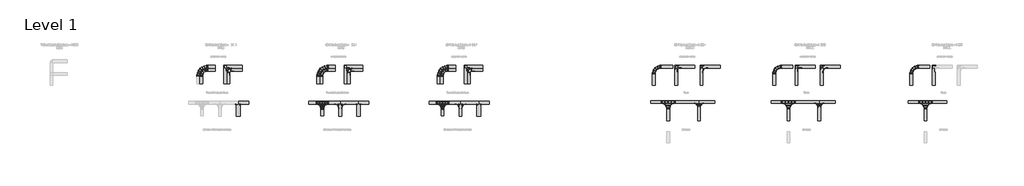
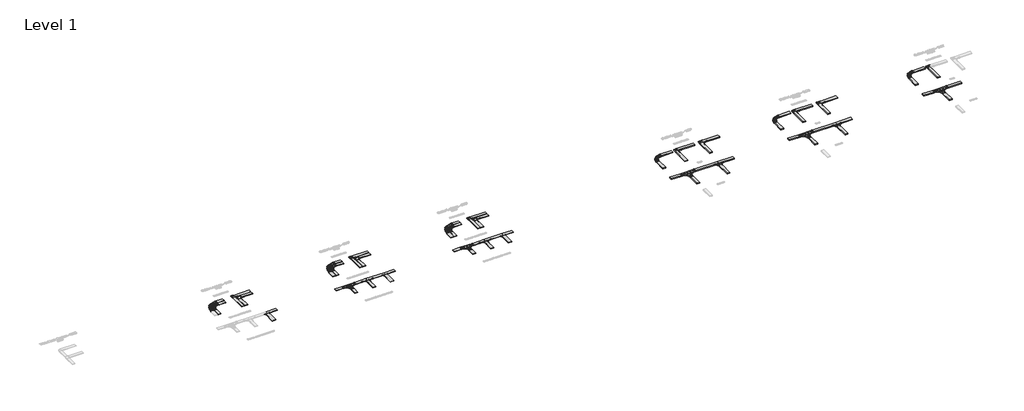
# One storey, part 17 of 106: 67 cable carrier segments, 56 cable carrier fittings.
"""IFC4 building model written with IfcOpenShell, lengths in millimetres."""

from ifc_helpers import new_model, si_unit, frame, origin, place, context, project, spatial, polyline, outline, extrude, transform, mapped, element, save
from components import cable_carrier_fitting_2d894193, cable_carrier_fitting_655502a1, cable_carrier_fitting_0f11f104, cable_carrier_fitting_8b1f635d, cable_carrier_fitting_d30d66bc, cable_carrier_fitting_8d7dc52b, cable_carrier_fitting_cb814f34, cable_carrier_fitting_a9217249, cable_carrier_fitting_0282ae3e, cable_carrier_fitting_7be8867b, cable_carrier_fitting_6104b6d9, cable_carrier_fitting_7f83391f, cable_carrier_fitting_c279e415, cable_carrier_fitting_8fabbff6, cable_carrier_fitting_aab6282a, cable_carrier_fitting_abdd8f1c, cable_carrier_fitting_74346276, cable_carrier_fitting_f2f9dd5a, cable_carrier_fitting_50edb55a, cable_carrier_fitting_8eee429d, cable_carrier_fitting_5ffc5da9, cable_carrier_fitting_e0d5d1fe, cable_carrier_fitting_fa28906a, cable_carrier_fitting_d9442e26, cable_carrier_fitting_6588ca61

model = new_model("IFC4")

# Units and contexts
model_context = context("Model", 3, world=origin())
ifc_project = project(units=[si_unit("LENGTHUNIT", "METRE", prefix="MILLI")], contexts=[model_context])

# Site, building, storey
site = spatial("IfcSite", under=ifc_project)
building = spatial("IfcBuilding", under=site)
storey = spatial("IfcBuildingStorey", under=building, Name="Level 1", Elevation=0.0)

# Cable carrier fittings
placement = place(None, origin())
cable_carrier_fitting_shape = cable_carrier_fitting_2d894193(model_context)
element("IfcCableCarrierFitting", 1, ObjectType="BAKS_LD_CONN_Angle coupler bendable_LKU : LKUP_H45", at=placement, inside=storey, context=model_context, shape_type="MappedRepresentation", body=[
    mapped(cable_carrier_fitting_shape, transform((32089.4231102, 65255.924016, 32.5), x_axis=(1.0, 0.0, 0.0), y_axis=(0.0, 1.0, 0.0), z_axis=(0.0, 0.0, 1.0))),
])
element("IfcCableCarrierFitting", 2, ObjectType="BAKS_LD_CONN_Angle coupler bendable_LKU : LKUP_H45", at=placement, inside=storey, context=model_context, shape_type="MappedRepresentation", body=[
    mapped(cable_carrier_fitting_shape, transform((32489.4231102, 65255.924016, 32.5), x_axis=(0.0, 1.0, 0.0), y_axis=(-1.0, 0.0, 0.0), z_axis=(0.0, 0.0, 1.0))),
])
element("IfcCableCarrierFitting", 3, ObjectType="BAKS_LD_CONN_Angle coupler bendable_LKU : LKUP_H45", at=placement, inside=storey, context=model_context, shape_type="MappedRepresentation", body=[
    mapped(cable_carrier_fitting_shape, transform((43080.7849338, 65255.924016, 32.5), x_axis=(1.0, 0.0, 0.0), y_axis=(0.0, 1.0, 0.0), z_axis=(0.0, 0.0, 1.0))),
])
element("IfcCableCarrierFitting", 4, ObjectType="BAKS_LD_CONN_Angle coupler bendable_LKU : LKUP_H45", at=placement, inside=storey, context=model_context, shape_type="MappedRepresentation", body=[
    mapped(cable_carrier_fitting_shape, transform((43380.7849338, 65255.924016, 32.5), x_axis=(0.0, 1.0, 0.0), y_axis=(-1.0, 0.0, 0.0), z_axis=(0.0, 0.0, 1.0))),
])
element("IfcCableCarrierFitting", 5, ObjectType="BAKS_LD_CONN_Angle coupler bendable_LKU : LKUP_H45", at=placement, inside=storey, context=model_context, shape_type="MappedRepresentation", body=[
    mapped(cable_carrier_fitting_shape, transform((44989.4231102, 65255.924016, 32.5), x_axis=(1.0, 0.0, 0.0), y_axis=(0.0, 1.0, 0.0), z_axis=(0.0, 0.0, 1.0))),
])
element("IfcCableCarrierFitting", 6, ObjectType="BAKS_LD_CONN_Angle coupler bendable_LKU : LKUP_H45", at=placement, inside=storey, context=model_context, shape_type="MappedRepresentation", body=[
    mapped(cable_carrier_fitting_shape, transform((45389.4231102, 65255.924016, 32.5), x_axis=(0.0, 1.0, 0.0), y_axis=(-1.0, 0.0, 0.0), z_axis=(0.0, 0.0, 1.0))),
])
cable_carrier_fitting_2_shape = cable_carrier_fitting_655502a1(model_context)
element("IfcCableCarrierFitting", 7, ObjectType="BAKS_LD_CONN_Angle coupler bendable_LKU : LKUC_H45", at=placement, inside=storey, context=model_context, shape_type="MappedRepresentation", body=[
    mapped(cable_carrier_fitting_2_shape, transform((55980.7849338, 65255.924016, 32.5), x_axis=(1.0, 0.0, 0.0), y_axis=(0.0, 1.0, 0.0), z_axis=(0.0, 0.0, 1.0))),
])
element("IfcCableCarrierFitting", 8, ObjectType="BAKS_LD_CONN_Angle coupler bendable_LKU : LKUC_H45", at=placement, inside=storey, context=model_context, shape_type="MappedRepresentation", body=[
    mapped(cable_carrier_fitting_2_shape, transform((56280.7849338, 65255.924016, 32.5), x_axis=(0.0, 1.0, 0.0), y_axis=(-1.0, 0.0, 0.0), z_axis=(0.0, 0.0, 1.0))),
])
element("IfcCableCarrierFitting", 9, ObjectType="BAKS_LD_CONN_Angle coupler bendable_LKU : LKUC_H45", at=placement, inside=storey, context=model_context, shape_type="MappedRepresentation", body=[
    mapped(cable_carrier_fitting_2_shape, transform((57889.4231102, 65255.924016, 32.5), x_axis=(1.0, 0.0, 0.0), y_axis=(0.0, 1.0, 0.0), z_axis=(0.0, 0.0, 1.0))),
])
element("IfcCableCarrierFitting", 10, ObjectType="BAKS_LD_CONN_Angle coupler bendable_LKU : LKUC_H45", at=placement, inside=storey, context=model_context, shape_type="MappedRepresentation", body=[
    mapped(cable_carrier_fitting_2_shape, transform((58289.4231102, 65255.924016, 32.5), x_axis=(0.0, 1.0, 0.0), y_axis=(-1.0, 0.0, 0.0), z_axis=(0.0, 0.0, 1.0))),
])
cable_carrier_fitting_3_shape = cable_carrier_fitting_0f11f104(model_context)
element("IfcCableCarrierFitting", 11, ObjectType="BAKS_LD_CONN_Addon connector_LDDK : LDDKP", at=placement, inside=storey, context=model_context, shape_type="MappedRepresentation", body=[
    mapped(cable_carrier_fitting_3_shape, transform((43080.7849338, 65255.924016, 55.0), x_axis=(1.0, 0.0, 0.0), y_axis=(0.0, 1.0, 0.0), z_axis=(0.0, 0.0, 1.0))),
])
element("IfcCableCarrierFitting", 12, ObjectType="BAKS_LD_CONN_Addon connector_LDDK : LDDKP", at=placement, inside=storey, context=model_context, shape_type="MappedRepresentation", body=[
    mapped(cable_carrier_fitting_3_shape, transform((55980.7849338, 65255.924016, 55.0), x_axis=(1.0, 0.0, 0.0), y_axis=(0.0, 1.0, 0.0), z_axis=(0.0, 0.0, 1.0))),
])
cable_carrier_fitting_4_shape = cable_carrier_fitting_8b1f635d(model_context)
element("IfcCableCarrierFitting", 13, ObjectType="BAKS_LD_BEND_Horizontal bend_LD : LDP_H45", at=placement, inside=storey, context=model_context, shape_type="MappedRepresentation", body=[
    mapped(cable_carrier_fitting_4_shape, transform((28333.1923304, 68934.0774962, 55.0), x_axis=(-1.0, 0.0, 0.0), y_axis=(0.0, -1.0, 0.0), z_axis=(0.0, 0.0, 1.0))),
])
element("IfcCableCarrierFitting", 14, ObjectType="BAKS_LD_BEND_Horizontal bend_LD : LDP_H45", at=placement, inside=storey, context=model_context, shape_type="MappedRepresentation", body=[
    mapped(cable_carrier_fitting_4_shape, transform((41233.1923304, 68934.0774962, 55.0), x_axis=(-1.0, 0.0, 0.0), y_axis=(0.0, -1.0, 0.0), z_axis=(0.0, 0.0, 1.0))),
])
cable_carrier_fitting_5_shape = cable_carrier_fitting_d30d66bc(model_context)
element("IfcCableCarrierFitting", 15, ObjectType="BAKS_LD_TEE_Ladder horizontal tee_TD : TDP_H45", at=placement, inside=storey, context=model_context, shape_type="MappedRepresentation", body=[
    mapped(cable_carrier_fitting_5_shape, transform((41302.3039726, 65405.924016, 55.0), x_axis=(1.0, 0.0, 0.0), y_axis=(0.0, 1.0, 0.0), z_axis=(0.0, 0.0, 1.0))),
])
cable_carrier_fitting_6_shape = cable_carrier_fitting_8d7dc52b(model_context)
element("IfcCableCarrierFitting", 16, ObjectType="BAKS_LD_CONN_Univarsal connector elbow_LLUS : LLUSP_H45", at=placement, inside=storey, context=model_context, shape_type="MappedRepresentation", body=[
    mapped(cable_carrier_fitting_6_shape, transform((31245.9928229, 68934.0678837, 55.0), x_axis=(-1.0, 0.0, 0.0), y_axis=(0.0, -1.0, 0.0), z_axis=(0.0, 0.0, 1.0))),
])
element("IfcCableCarrierFitting", 17, ObjectType="BAKS_LD_CONN_Univarsal connector elbow_LLUS : LLUSP_H45", at=placement, inside=storey, context=model_context, shape_type="MappedRepresentation", body=[
    mapped(cable_carrier_fitting_6_shape, transform((44145.9928229, 68934.0678837, 55.0), x_axis=(-1.0, 0.0, 0.0), y_axis=(0.0, -1.0, 0.0), z_axis=(0.0, 0.0, 1.0))),
])
cable_carrier_fitting_7_shape = cable_carrier_fitting_cb814f34(model_context)
element("IfcCableCarrierFitting", 18, ObjectType="BAKS_LD_BEND_Horizontal bend external_LDZ : LDZP_H45", at=placement, inside=storey, context=model_context, shape_type="MappedRepresentation", body=[
    mapped(cable_carrier_fitting_7_shape, transform((27979.6389398, 69287.6308868, 55.0), x_axis=(-1.0, 0.0, 0.0), y_axis=(0.0, -1.0, 0.0), z_axis=(0.0, 0.0, 1.0))),
])
element("IfcCableCarrierFitting", 19, ObjectType="BAKS_LD_BEND_Horizontal bend external_LDZ : LDZP_H45", at=placement, inside=storey, context=model_context, shape_type="MappedRepresentation", body=[
    mapped(cable_carrier_fitting_7_shape, transform((40879.6389398, 69287.6308868, 55.0), x_axis=(-1.0, 0.0, 0.0), y_axis=(0.0, -1.0, 0.0), z_axis=(0.0, 0.0, 1.0))),
])
cable_carrier_fitting_8_shape = cable_carrier_fitting_a9217249(model_context)
element("IfcCableCarrierFitting", 20, ObjectType="BAKS_LD_CONN_Addon connector_LDDK : LDDKP", at=placement, inside=storey, context=model_context, shape_type="MappedRepresentation", body=[
    mapped(cable_carrier_fitting_8_shape, transform((43380.7849338, 65255.924016, 55.0), x_axis=(-1.0, 0.0, 0.0), y_axis=(0.0, -1.0, 0.0), z_axis=(0.0, 0.0, 1.0))),
])
element("IfcCableCarrierFitting", 21, ObjectType="BAKS_LD_CONN_Addon connector_LDDK : LDDKP", at=placement, inside=storey, context=model_context, shape_type="MappedRepresentation", body=[
    mapped(cable_carrier_fitting_8_shape, transform((56280.7849338, 65255.924016, 55.0), x_axis=(-1.0, 0.0, 0.0), y_axis=(0.0, -1.0, 0.0), z_axis=(0.0, 0.0, 1.0))),
])
cable_carrier_fitting_9_shape = cable_carrier_fitting_0282ae3e(model_context)
element("IfcCableCarrierFitting", 22, ObjectType="BAKS_LD_CONN_Angle connector_LKD : LKDP_H45", at=placement, inside=storey, context=model_context, shape_type="MappedRepresentation", body=[
    mapped(cable_carrier_fitting_9_shape, transform((30742.4394324, 69437.6212743, 55.0), x_axis=(-1.0, 0.0, 0.0), y_axis=(0.0, -1.0, 0.0), z_axis=(0.0, 0.0, 1.0))),
])
element("IfcCableCarrierFitting", 23, ObjectType="BAKS_LD_CONN_Angle connector_LKD : LKDP_H45", at=placement, inside=storey, context=model_context, shape_type="MappedRepresentation", body=[
    mapped(cable_carrier_fitting_9_shape, transform((43642.4394324, 69437.6212743, 55.0), x_axis=(-1.0, 0.0, 0.0), y_axis=(0.0, -1.0, 0.0), z_axis=(0.0, 0.0, 1.0))),
])
cable_carrier_fitting_10_shape = cable_carrier_fitting_7be8867b(model_context)
element("IfcCableCarrierFitting", 24, ObjectType="BAKS_LD_CONN_Angle connector_LKD : LKDP_H45", at=placement, inside=storey, context=model_context, shape_type="MappedRepresentation", body=[
    mapped(cable_carrier_fitting_10_shape, transform((31042.4394324, 69137.6212743, 55.0), x_axis=(-1.0, 0.0, 0.0), y_axis=(0.0, -1.0, 0.0), z_axis=(0.0, 0.0, 1.0))),
])
element("IfcCableCarrierFitting", 25, ObjectType="BAKS_LD_CONN_Angle connector_LKD : LKDP_H45", at=placement, inside=storey, context=model_context, shape_type="MappedRepresentation", body=[
    mapped(cable_carrier_fitting_10_shape, transform((43942.4394324, 69137.6212743, 55.0), x_axis=(-1.0, 0.0, 0.0), y_axis=(0.0, -1.0, 0.0), z_axis=(0.0, 0.0, 1.0))),
])
cable_carrier_fitting_11_shape = cable_carrier_fitting_6104b6d9(model_context)
element("IfcCableCarrierFitting", 26, ObjectType="BAKS_LD_BEND_2 x Angle connector_LKD : 2 x LKDP_H45", at=placement, inside=storey, context=model_context, shape_type="MappedRepresentation", body=[
    mapped(cable_carrier_fitting_11_shape, transform((30892.4394324, 69287.6212743, 55.0), x_axis=(-1.0, 0.0, 0.0), y_axis=(0.0, -1.0, 0.0), z_axis=(0.0, 0.0, 1.0))),
])
element("IfcCableCarrierFitting", 27, ObjectType="BAKS_LD_BEND_2 x Angle connector_LKD : 2 x LKDP_H45", at=placement, inside=storey, context=model_context, shape_type="MappedRepresentation", body=[
    mapped(cable_carrier_fitting_11_shape, transform((43792.4394324, 69287.6212743, 55.0), x_axis=(-1.0, 0.0, 0.0), y_axis=(0.0, -1.0, 0.0), z_axis=(0.0, 0.0, 1.0))),
])
element("IfcCableCarrierFitting", 28, ObjectType="BAKS_LD_BEND_Horizontal bend external_LDZ : LDZC_H45", at=placement, inside=storey, context=model_context, shape_type="MappedRepresentation", body=[
    mapped(cable_carrier_fitting_7_shape, transform((53779.6389398, 69287.6308868, 55.0), x_axis=(-1.0, 0.0, 0.0), y_axis=(0.0, -1.0, 0.0), z_axis=(0.0, 0.0, 1.0))),
])
element("IfcCableCarrierFitting", 29, ObjectType="BAKS_LD_BEND_Horizontal bend_LD : LDC_H45", at=placement, inside=storey, context=model_context, shape_type="MappedRepresentation", body=[
    mapped(cable_carrier_fitting_4_shape, transform((54133.1923304, 68934.0774962, 55.0), x_axis=(-1.0, 0.0, 0.0), y_axis=(0.0, -1.0, 0.0), z_axis=(0.0, 0.0, 1.0))),
])
cable_carrier_fitting_12_shape = cable_carrier_fitting_7f83391f(model_context)
element("IfcCableCarrierFitting", 30, ObjectType="BAKS_LD_BEND_2 x Angle connector_LKD : 2 x LKDC_H45", at=placement, inside=storey, context=model_context, shape_type="MappedRepresentation", body=[
    mapped(cable_carrier_fitting_12_shape, transform((56692.4394324, 69287.6212743, 55.0), x_axis=(-1.0, 0.0, 0.0), y_axis=(0.0, -1.0, 0.0), z_axis=(0.0, 0.0, 1.0))),
])
cable_carrier_fitting_13_shape = cable_carrier_fitting_c279e415(model_context)
element("IfcCableCarrierFitting", 31, ObjectType="BAKS_LD_CONN_Angle connector_LKD : LKDC_H45", at=placement, inside=storey, context=model_context, shape_type="MappedRepresentation", body=[
    mapped(cable_carrier_fitting_13_shape, transform((56542.4383806, 69437.6212743, 55.0), x_axis=(-1.0, 0.0, 0.0), y_axis=(0.0, -1.0, 0.0), z_axis=(0.0, 0.0, 1.0))),
])
cable_carrier_fitting_14_shape = cable_carrier_fitting_8fabbff6(model_context)
element("IfcCableCarrierFitting", 32, ObjectType="BAKS_LD_CONN_Angle connector_LKD : LKDC_H45", at=placement, inside=storey, context=model_context, shape_type="MappedRepresentation", body=[
    mapped(cable_carrier_fitting_14_shape, transform((56842.4404841, 69137.6212743, 55.0), x_axis=(-1.0, 0.0, 0.0), y_axis=(0.0, -1.0, 0.0), z_axis=(0.0, 0.0, 1.0))),
])
element("IfcCableCarrierFitting", 33, ObjectType="BAKS_LD_CONN_Univarsal connector elbow_LLUS : LLUS_H45", at=placement, inside=storey, context=model_context, shape_type="MappedRepresentation", body=[
    mapped(cable_carrier_fitting_6_shape, transform((57045.9928229, 68934.0678837, 55.0), x_axis=(-1.0, 0.0, 0.0), y_axis=(0.0, -1.0, 0.0), z_axis=(0.0, 0.0, 1.0))),
])
element("IfcCableCarrierFitting", 34, ObjectType="BAKS_LD_TEE_Ladder horizontal tee_TD : TDC_H45", at=placement, inside=storey, context=model_context, shape_type="MappedRepresentation", body=[
    mapped(cable_carrier_fitting_5_shape, transform((54202.3039726, 65405.924016, 55.0), x_axis=(1.0, 0.0, 0.0), y_axis=(0.0, 1.0, 0.0), z_axis=(0.0, 0.0, 1.0))),
])
cable_carrier_fitting_15_shape = cable_carrier_fitting_aab6282a(model_context)
element("IfcCableCarrierFitting", 35, ObjectType="BAKS_LDLS_BEND_Horizontal bend_LDS : LDSC/LDSMC_H100", at=placement, inside=storey, context=model_context, shape_type="MappedRepresentation", body=[
    mapped(cable_carrier_fitting_15_shape, transform((89769.5117541, 69272.6565861, 55.0), x_axis=(-1.0, 0.0, 0.0), y_axis=(0.0, -1.0, 0.0), z_axis=(0.0, 0.0, 1.0))),
])
cable_carrier_fitting_16_shape = cable_carrier_fitting_abdd8f1c(model_context)
element("IfcCableCarrierFitting", 36, ObjectType="BAKS_LDLS_TEE_Ladder horizontal tee_TDS : TDSC_H100", at=placement, inside=storey, context=model_context, shape_type="MappedRepresentation", body=[
    mapped(cable_carrier_fitting_16_shape, transform((91294.8605695, 65498.3440687, 55.0), x_axis=(1.0, 0.0, 0.0), y_axis=(0.0, 1.0, 0.0), z_axis=(0.0, 0.0, 1.0))),
])
element("IfcCableCarrierFitting", 37, ObjectType="BAKS_LDLS_BEND_Horizontal bend_LDS : LDSP/LDSMP_H100", at=placement, inside=storey, context=model_context, shape_type="MappedRepresentation", body=[
    mapped(cable_carrier_fitting_15_shape, transform((76869.5117541, 69272.6565861, 55.0), x_axis=(-1.0, 0.0, 0.0), y_axis=(0.0, -1.0, 0.0), z_axis=(0.0, 0.0, 1.0))),
])
element("IfcCableCarrierFitting", 38, ObjectType="BAKS_LDLS_TEE_Ladder horizontal tee_TDS : TDSP_H100", at=placement, inside=storey, context=model_context, shape_type="MappedRepresentation", body=[
    mapped(cable_carrier_fitting_16_shape, transform((78394.8605695, 65498.3440687, 55.0), x_axis=(1.0, 0.0, 0.0), y_axis=(0.0, 1.0, 0.0), z_axis=(0.0, 0.0, 1.0))),
])
element("IfcCableCarrierFitting", 39, ObjectType="BAKS_LDLS_BEND_Horizontal bend_LDS : LDST/LDSMT_H100", at=placement, inside=storey, context=model_context, shape_type="MappedRepresentation", body=[
    mapped(cable_carrier_fitting_15_shape, transform((104469.5117541, 69272.6565861, 55.0), x_axis=(-1.0, 0.0, 0.0), y_axis=(0.0, -1.0, 0.0), z_axis=(0.0, 0.0, 1.0))),
])
element("IfcCableCarrierFitting", 40, ObjectType="BAKS_LDLS_TEE_Ladder horizontal tee_TDS : TDST_H100", at=placement, inside=storey, context=model_context, shape_type="MappedRepresentation", body=[
    mapped(cable_carrier_fitting_16_shape, transform((105994.8605695, 65498.3440687, 55.0), x_axis=(1.0, 0.0, 0.0), y_axis=(0.0, 1.0, 0.0), z_axis=(0.0, 0.0, 1.0))),
])
cable_carrier_fitting_17_shape = cable_carrier_fitting_74346276(model_context)
element("IfcCableCarrierFitting", 41, ObjectType="BAKS_LDLS_CONN_Inner extension straight connector_LDUW : LDUW_H100", at=placement, inside=storey, context=model_context, shape_type="MappedRepresentation", body=[
    mapped(cable_carrier_fitting_17_shape, transform((82119.5117541, 69122.6565861, 55.0), x_axis=(-1.0, 0.0, 0.0), y_axis=(0.0, -1.0, 0.0), z_axis=(0.0, 0.0, 1.0))),
])
element("IfcCableCarrierFitting", 42, ObjectType="BAKS_LDLS_CONN_Inner extension straight connector_LDUW : LDUW_H100", at=placement, inside=storey, context=model_context, shape_type="MappedRepresentation", body=[
    mapped(cable_carrier_fitting_17_shape, transform((95019.5117541, 69122.6565861, 55.0), x_axis=(-1.0, 0.0, 0.0), y_axis=(0.0, -1.0, 0.0), z_axis=(0.0, 0.0, 1.0))),
])
cable_carrier_fitting_18_shape = cable_carrier_fitting_f2f9dd5a(model_context)
element("IfcCableCarrierFitting", 43, ObjectType="BAKS_LDLS_CONN_Outer straight connector angled_LKUZ : LKUZ_H100", at=placement, inside=storey, context=model_context, shape_type="MappedRepresentation", body=[
    mapped(cable_carrier_fitting_18_shape, transform((81819.5117541, 69422.6565861, 55.0), x_axis=(-1.0, 0.0, 0.0), y_axis=(0.0, -1.0, 0.0), z_axis=(0.0, 0.0, 1.0))),
])
element("IfcCableCarrierFitting", 44, ObjectType="BAKS_LDLS_CONN_Outer straight connector angled_LKUZ : LKUZ_H100", at=placement, inside=storey, context=model_context, shape_type="MappedRepresentation", body=[
    mapped(cable_carrier_fitting_18_shape, transform((94719.5117541, 69422.6565861, 55.0), x_axis=(-1.0, 0.0, 0.0), y_axis=(0.0, -1.0, 0.0), z_axis=(0.0, 0.0, 1.0))),
])
cable_carrier_fitting_19_shape = cable_carrier_fitting_50edb55a(model_context)
element("IfcCableCarrierFitting", 45, ObjectType="BAKS_LDLS_BEND_LDDSC Extension arch set_LDUWxLKUZ : LDDSC_H100", at=placement, inside=storey, context=model_context, shape_type="MappedRepresentation", body=[
    mapped(cable_carrier_fitting_19_shape, transform((81969.5117541, 69272.6565861, 55.0), x_axis=(-1.0, 0.0, 0.0), y_axis=(0.0, -1.0, 0.0), z_axis=(0.0, 0.0, 1.0))),
])
element("IfcCableCarrierFitting", 46, ObjectType="BAKS_LDLS_BEND_LDDSC Extension arch set_LDUWxLKUZ : LDDSC_H100", at=placement, inside=storey, context=model_context, shape_type="MappedRepresentation", body=[
    mapped(cable_carrier_fitting_19_shape, transform((94869.5117541, 69272.6565861, 55.0), x_axis=(-1.0, 0.0, 0.0), y_axis=(0.0, -1.0, 0.0), z_axis=(0.0, 0.0, 1.0))),
])
element("IfcCableCarrierFitting", 47, ObjectType="BAKS_LDLS_BEND_2 x Angle connector_LKSU : 2 x LKSUP_H100", at=placement, inside=storey, context=model_context, shape_type="MappedRepresentation", body=[
    mapped(cable_carrier_fitting_19_shape, transform((79269.5117541, 69272.6565861, 55.0), x_axis=(-1.0, 0.0, 0.0), y_axis=(0.0, -1.0, 0.0), z_axis=(0.0, 0.0, 1.0))),
])
cable_carrier_fitting_20_shape = cable_carrier_fitting_8eee429d(model_context)
element("IfcCableCarrierFitting", 48, ObjectType="BAKS_LDLS_CONN_Angle connector_LKSU : LKSUP_H100", at=placement, inside=storey, context=model_context, shape_type="MappedRepresentation", body=[
    mapped(cable_carrier_fitting_20_shape, transform((79119.5117541, 69422.6565861, 55.0), x_axis=(-1.0, 0.0, 0.0), y_axis=(0.0, -1.0, 0.0), z_axis=(0.0, 0.0, 1.0))),
])
cable_carrier_fitting_21_shape = cable_carrier_fitting_5ffc5da9(model_context)
element("IfcCableCarrierFitting", 49, ObjectType="BAKS_LDLS_CONN_Angle connector_LKSU : LKSUP_H100", at=placement, inside=storey, context=model_context, shape_type="MappedRepresentation", body=[
    mapped(cable_carrier_fitting_21_shape, transform((79419.5117541, 69122.6565861, 55.0), x_axis=(-1.0, 0.0, 0.0), y_axis=(0.0, -1.0, 0.0), z_axis=(0.0, 0.0, 1.0))),
])
cable_carrier_fitting_22_shape = cable_carrier_fitting_e0d5d1fe(model_context)
element("IfcCableCarrierFitting", 50, ObjectType="BAKS_LDLS_TEE_Addon tee_TDSU : TDSUC_H100", at=placement, inside=storey, context=model_context, shape_type="MappedRepresentation", body=[
    mapped(cable_carrier_fitting_22_shape, transform((94606.814664, 65498.3440687, 55.0), x_axis=(1.0, 0.0, 0.0), y_axis=(0.0, 1.0, 0.0), z_axis=(0.0, 0.0, 1.0))),
])
cable_carrier_fitting_23_shape = cable_carrier_fitting_fa28906a(model_context)
element("IfcCableCarrierFitting", 51, ObjectType="BAKS_LDLS_TEE_Addon tee_TDSU : TDSUP_H100", at=placement, inside=storey, context=model_context, shape_type="MappedRepresentation", body=[
    mapped(cable_carrier_fitting_23_shape, transform((81706.814664, 65498.3440687, 55.0), x_axis=(1.0, 0.0, 0.0), y_axis=(0.0, 1.0, 0.0), z_axis=(0.0, 0.0, 1.0))),
])
element("IfcCableCarrierFitting", 52, ObjectType="BAKS_LDLS_BEND_2 x Angle connector_LKSU : 2 x LKSUC_H100", at=placement, inside=storey, context=model_context, shape_type="MappedRepresentation", body=[
    mapped(cable_carrier_fitting_19_shape, transform((92169.5117541, 69272.6565861, 55.0), x_axis=(-1.0, 0.0, 0.0), y_axis=(0.0, -1.0, 0.0), z_axis=(0.0, 0.0, 1.0))),
])
element("IfcCableCarrierFitting", 53, ObjectType="BAKS_LDLS_CONN_Angle connector_LKSU : LKSUC_H100", at=placement, inside=storey, context=model_context, shape_type="MappedRepresentation", body=[
    mapped(cable_carrier_fitting_18_shape, transform((92019.5117541, 69422.6565861, 55.0), x_axis=(-1.0, 0.0, 0.0), y_axis=(0.0, -1.0, 0.0), z_axis=(0.0, 0.0, 1.0))),
])
cable_carrier_fitting_24_shape = cable_carrier_fitting_d9442e26(model_context)
element("IfcCableCarrierFitting", 54, ObjectType="BAKS_LDLS_CONN_Angle connector_LKSU : LKSUC_H100", at=placement, inside=storey, context=model_context, shape_type="MappedRepresentation", body=[
    mapped(cable_carrier_fitting_24_shape, transform((92319.5117541, 69122.6565861, 55.0), x_axis=(-1.0, 0.0, 0.0), y_axis=(0.0, -1.0, 0.0), z_axis=(0.0, 0.0, 1.0))),
])
element("IfcCableCarrierFitting", 55, ObjectType="BAKS_LDLS_BEND_2 x Angle connector_LKSU : 2 x LKSUT_H100", at=placement, inside=storey, context=model_context, shape_type="MappedRepresentation", body=[
    mapped(cable_carrier_fitting_19_shape, transform((106869.5117541, 69272.6565861, 55.0), x_axis=(-1.0, 0.0, 0.0), y_axis=(0.0, -1.0, 0.0), z_axis=(0.0, 0.0, 1.0))),
])
cable_carrier_fitting_25_shape = cable_carrier_fitting_6588ca61(model_context)
element("IfcCableCarrierFitting", 56, ObjectType="BAKS_LDLS_CONN_Angle connector_LKSU : LKSUT_H100", at=placement, inside=storey, context=model_context, shape_type="MappedRepresentation", body=[
    mapped(cable_carrier_fitting_25_shape, transform((106719.5117541, 69422.6565861, 55.0), x_axis=(-1.0, 0.0, 0.0), y_axis=(0.0, -1.0, 0.0), z_axis=(0.0, 0.0, 1.0))),
])

# Cable carrier segments
element("IfcCableCarrierSegment", 57, ObjectType="BAKS - Ladder H45 (DKD)", at=placement, inside=storey, context=model_context, shape_type="SweptSolid", body=[
    extrude(outline(polyline([(29053.1923304, 68784.0774962), (29053.1923304, 69084.0774962), (29810.6923304, 69084.0774962), (29810.6923304, 68784.0774962), (29053.1923304, 68784.0774962)])), frame((0.0, 0.0, 32.5), z_axis=(0.0, 0.0, 1.0), x_axis=(1.0, 0.0, 0.0)), (0.0, 0.0, 1.0), 45.0),
])
element("IfcCableCarrierSegment", 58, ObjectType="BAKS - Ladder H45 (DKD)", at=placement, inside=storey, context=model_context, shape_type="SweptSolid", body=[
    extrude(outline(polyline([(28183.1923304, 68214.0774962), (28483.1923304, 68214.0774962), (28483.1923304, 67434.0774962), (28183.1923304, 67434.0774962), (28183.1923304, 68214.0774962)])), frame((0.0, 0.0, 32.5), z_axis=(0.0, 0.0, 1.0), x_axis=(1.0, 0.0, 0.0)), (0.0, 0.0, 1.0), 45.0),
])
element("IfcCableCarrierSegment", 59, ObjectType="BAKS - Ladder H45 (DKD)", at=placement, inside=storey, context=model_context, shape_type="SweptSolid", body=[
    extrude(outline(polyline([(29079.6389398, 69137.6308868), (29079.6389398, 69437.6308868), (29810.6923304, 69437.6308868), (29810.6923304, 69137.6308868), (29079.6389398, 69137.6308868)])), frame((0.0, 0.0, 32.5), z_axis=(0.0, 0.0, 1.0), x_axis=(1.0, 0.0, 0.0)), (0.0, 0.0, 1.0), 45.0),
])
element("IfcCableCarrierSegment", 60, ObjectType="BAKS - Ladder H45 (DKD)", at=placement, inside=storey, context=model_context, shape_type="SweptSolid", body=[
    extrude(outline(polyline([(32290.9231102, 65255.924016), (32290.9231102, 65555.924016), (33412.2849338, 65555.924016), (33412.2849338, 65255.924016), (32290.9231102, 65255.924016)])), frame((0.0, 0.0, 32.5), z_axis=(0.0, 0.0, 1.0), x_axis=(1.0, 0.0, 0.0)), (0.0, 0.0, 1.0), 45.0),
])
element("IfcCableCarrierSegment", 61, ObjectType="BAKS - Ladder H45 (DKD)", at=placement, inside=storey, context=model_context, shape_type="SweptSolid", body=[
    extrude(outline(polyline([(32089.4231102, 65225.924016), (32489.4231102, 65225.924016), (32489.4231102, 63955.924016), (32089.4231102, 63955.924016), (32089.4231102, 65225.924016)])), frame((0.0, 0.0, 32.5), z_axis=(0.0, 0.0, 1.0), x_axis=(1.0, 0.0, 0.0)), (0.0, 0.0, 1.0), 45.0),
])
element("IfcCableCarrierSegment", 62, ObjectType="BAKS - Ladder H45 (DKD)", at=placement, inside=storey, context=model_context, shape_type="SweptSolid", body=[
    extrude(outline(polyline([(31535.9928229, 68784.0678837), (31535.9928229, 69084.0678837), (32723.4928229, 69084.0678837), (32723.4928229, 68784.0678837), (31535.9928229, 68784.0678837)])), frame((0.0, 0.0, 32.5), z_axis=(0.0, 0.0, 1.0), x_axis=(1.0, 0.0, 0.0)), (0.0, 0.0, 1.0), 45.0),
])
element("IfcCableCarrierSegment", 63, ObjectType="BAKS - Ladder H45 (DKD)", at=placement, inside=storey, context=model_context, shape_type="SweptSolid", body=[
    extrude(outline(polyline([(31095.9928229, 68644.0678837), (31395.9928229, 68644.0678837), (31395.9928229, 67434.0678837), (31095.9928229, 67434.0678837), (31095.9928229, 68644.0678837)])), frame((0.0, 0.0, 32.5), z_axis=(0.0, 0.0, 1.0), x_axis=(1.0, 0.0, 0.0)), (0.0, 0.0, 1.0), 45.0),
])
element("IfcCableCarrierSegment", 64, ObjectType="BAKS - Ladder H45 (DKD)", at=placement, inside=storey, context=model_context, shape_type="SweptSolid", body=[
    extrude(outline(polyline([(31042.4383287, 69137.6336431), (31042.440536, 69437.6336431), (32723.4939266, 69437.6212743), (32723.4917193, 69137.6212743), (31042.4383287, 69137.6336431)])), frame((0.0, 0.0, 32.5), z_axis=(0.0, 0.0, 1.0), x_axis=(1.0, 0.0, 0.0)), (0.0, 0.0, 1.0), 45.0),
])
element("IfcCableCarrierSegment", 65, ObjectType="BAKS - Ladder H45 (DKD)", at=placement, inside=storey, context=model_context, shape_type="SweptSolid", body=[
    extrude(outline(polyline([(30742.4274879, 69137.6325914), (31042.4274879, 69137.6346948), (31042.4394324, 67434.0689354), (30742.4394324, 67434.066832), (30742.4274879, 69137.6325914)])), frame((0.0, 0.0, 32.5), z_axis=(0.0, 0.0, 1.0), x_axis=(1.0, 0.0, 0.0)), (0.0, 0.0, 1.0), 45.0),
])
element("IfcCableCarrierSegment", 66, ObjectType="BAKS - Ladder H45 (DKP)", at=placement, inside=storey, context=model_context, shape_type="SweptSolid", body=[
    extrude(outline(polyline([(41953.1923304, 68784.0774962), (41953.1923304, 69084.0774962), (42710.6923304, 69084.0774962), (42710.6923304, 68784.0774962), (41953.1923304, 68784.0774962)])), frame((0.0, 0.0, 32.5), z_axis=(0.0, 0.0, 1.0), x_axis=(1.0, 0.0, 0.0)), (0.0, 0.0, 1.0), 45.0),
])
element("IfcCableCarrierSegment", 67, ObjectType="BAKS - Ladder H45 (DKP)", at=placement, inside=storey, context=model_context, shape_type="SweptSolid", body=[
    extrude(outline(polyline([(41083.1923304, 68214.0774962), (41383.1923304, 68214.0774962), (41383.1923304, 67434.0774962), (41083.1923304, 67434.0774962), (41083.1923304, 68214.0774962)])), frame((0.0, 0.0, 32.5), z_axis=(0.0, 0.0, 1.0), x_axis=(1.0, 0.0, 0.0)), (0.0, 0.0, 1.0), 45.0),
])
element("IfcCableCarrierSegment", 68, ObjectType="BAKS - Ladder H45 (DKP)", at=placement, inside=storey, context=model_context, shape_type="SweptSolid", body=[
    extrude(outline(polyline([(41979.6389398, 69137.6308868), (41979.6389398, 69437.6308868), (42710.6923304, 69437.6308868), (42710.6923304, 69137.6308868), (41979.6389398, 69137.6308868)])), frame((0.0, 0.0, 32.5), z_axis=(0.0, 0.0, 1.0), x_axis=(1.0, 0.0, 0.0)), (0.0, 0.0, 1.0), 45.0),
])
element("IfcCableCarrierSegment", 69, ObjectType="BAKS - Ladder H45 (DKP)", at=placement, inside=storey, context=model_context, shape_type="SweptSolid", body=[
    extrude(outline(polyline([(40729.6389398, 68187.6308868), (41029.6389398, 68187.6308868), (41029.6389398, 67434.0774962), (40729.6389398, 67434.0774962), (40729.6389398, 68187.6308868)])), frame((0.0, 0.0, 32.5), z_axis=(0.0, 0.0, 1.0), x_axis=(1.0, 0.0, 0.0)), (0.0, 0.0, 1.0), 45.0),
])
element("IfcCableCarrierSegment", 70, ObjectType="BAKS - Ladder H45 (DKP)", at=placement, inside=storey, context=model_context, shape_type="SweptSolid", body=[
    extrude(outline(polyline([(45190.9231102, 65255.924016), (45190.9231102, 65555.924016), (46312.2849338, 65555.924016), (46312.2849338, 65255.924016), (45190.9231102, 65255.924016)])), frame((0.0, 0.0, 32.5), z_axis=(0.0, 0.0, 1.0), x_axis=(1.0, 0.0, 0.0)), (0.0, 0.0, 1.0), 45.0),
])
element("IfcCableCarrierSegment", 71, ObjectType="BAKS - Ladder H45 (DKP)", at=placement, inside=storey, context=model_context, shape_type="SweptSolid", body=[
    extrude(outline(polyline([(41152.3039726, 64685.924016), (41452.3039726, 64685.924016), (41452.3039726, 64005.924016), (41152.3039726, 64005.924016), (41152.3039726, 64685.924016)])), frame((0.0, 0.0, 32.5), z_axis=(0.0, 0.0, 1.0), x_axis=(1.0, 0.0, 0.0)), (0.0, 0.0, 1.0), 45.0),
])
element("IfcCableCarrierSegment", 72, ObjectType="BAKS - Ladder H45 (DKP)", at=placement, inside=storey, context=model_context, shape_type="SweptSolid", body=[
    extrude(outline(polyline([(39864.3823889, 65255.924016), (39864.3823889, 65555.924016), (40582.3039726, 65555.924016), (40582.3039726, 65255.924016), (39864.3823889, 65255.924016)])), frame((0.0, 0.0, 32.5), z_axis=(0.0, 0.0, 1.0), x_axis=(1.0, 0.0, 0.0)), (0.0, 0.0, 1.0), 45.0),
])
element("IfcCableCarrierSegment", 73, ObjectType="BAKS - Ladder H45 (DKP)", at=placement, inside=storey, context=model_context, shape_type="SweptSolid", body=[
    extrude(outline(polyline([(43080.7849338, 65225.924016), (43380.7849338, 65225.924016), (43380.7849338, 63955.924016), (43080.7849338, 63955.924016), (43080.7849338, 65225.924016)])), frame((0.0, 0.0, 32.5), z_axis=(0.0, 0.0, 1.0), x_axis=(1.0, 0.0, 0.0)), (0.0, 0.0, 1.0), 45.0),
])
element("IfcCableCarrierSegment", 74, ObjectType="BAKS - Ladder H45 (DKP)", at=placement, inside=storey, context=model_context, shape_type="SweptSolid", body=[
    extrude(outline(polyline([(42022.3039726, 65255.924016), (42022.3039726, 65555.924016), (43229.2849338, 65555.924016), (43229.2849338, 65255.924016), (42022.3039726, 65255.924016)])), frame((0.0, 0.0, 32.5), z_axis=(0.0, 0.0, 1.0), x_axis=(1.0, 0.0, 0.0)), (0.0, 0.0, 1.0), 45.0),
])
element("IfcCableCarrierSegment", 75, ObjectType="BAKS - Ladder H45 (DKP)", at=placement, inside=storey, context=model_context, shape_type="SweptSolid", body=[
    extrude(outline(polyline([(43232.2849338, 65255.924016), (43232.2849338, 65555.924016), (45187.9231102, 65555.924016), (45187.9231102, 65255.924016), (43232.2849338, 65255.924016)])), frame((0.0, 0.0, 32.5), z_axis=(0.0, 0.0, 1.0), x_axis=(1.0, 0.0, 0.0)), (0.0, 0.0, 1.0), 45.0),
])
element("IfcCableCarrierSegment", 76, ObjectType="BAKS - Ladder H45 (DKP)", at=placement, inside=storey, context=model_context, shape_type="SweptSolid", body=[
    extrude(outline(polyline([(44989.4231102, 65225.924016), (45389.4231102, 65225.924016), (45389.4231102, 63955.924016), (44989.4231102, 63955.924016), (44989.4231102, 65225.924016)])), frame((0.0, 0.0, 32.5), z_axis=(0.0, 0.0, 1.0), x_axis=(1.0, 0.0, 0.0)), (0.0, 0.0, 1.0), 45.0),
])
element("IfcCableCarrierSegment", 77, ObjectType="BAKS - Ladder H45 (DKP)", at=placement, inside=storey, context=model_context, shape_type="SweptSolid", body=[
    extrude(outline(polyline([(44435.9928229, 68784.0678837), (44435.9928229, 69084.0678837), (45623.4928229, 69084.0678837), (45623.4928229, 68784.0678837), (44435.9928229, 68784.0678837)])), frame((0.0, 0.0, 32.5), z_axis=(0.0, 0.0, 1.0), x_axis=(1.0, 0.0, 0.0)), (0.0, 0.0, 1.0), 45.0),
])
element("IfcCableCarrierSegment", 78, ObjectType="BAKS - Ladder H45 (DKP)", at=placement, inside=storey, context=model_context, shape_type="SweptSolid", body=[
    extrude(outline(polyline([(43995.9928229, 68644.0678837), (44295.9928229, 68644.0678837), (44295.9928229, 67434.0678837), (43995.9928229, 67434.0678837), (43995.9928229, 68644.0678837)])), frame((0.0, 0.0, 32.5), z_axis=(0.0, 0.0, 1.0), x_axis=(1.0, 0.0, 0.0)), (0.0, 0.0, 1.0), 45.0),
])
element("IfcCableCarrierSegment", 79, ObjectType="BAKS - Ladder H45 (DKP)", at=placement, inside=storey, context=model_context, shape_type="SweptSolid", body=[
    extrude(outline(polyline([(43942.4383287, 69137.6336431), (43942.440536, 69437.6336431), (45623.4939266, 69437.6212743), (45623.4917193, 69137.6212743), (43942.4383287, 69137.6336431)])), frame((0.0, 0.0, 32.5), z_axis=(0.0, 0.0, 1.0), x_axis=(1.0, 0.0, 0.0)), (0.0, 0.0, 1.0), 45.0),
])
element("IfcCableCarrierSegment", 80, ObjectType="BAKS - Ladder H45 (DKP)", at=placement, inside=storey, context=model_context, shape_type="SweptSolid", body=[
    extrude(outline(polyline([(43642.4274879, 69137.6325914), (43942.4274879, 69137.6346948), (43942.4394324, 67434.0689354), (43642.4394324, 67434.066832), (43642.4274879, 69137.6325914)])), frame((0.0, 0.0, 32.5), z_axis=(0.0, 0.0, 1.0), x_axis=(1.0, 0.0, 0.0)), (0.0, 0.0, 1.0), 45.0),
])
element("IfcCableCarrierSegment", 81, ObjectType="BAKS - Ladder H45 (DKC)", at=placement, inside=storey, context=model_context, shape_type="SweptSolid", body=[
    extrude(outline(polyline([(54853.1923304, 68784.0774962), (54853.1923304, 69084.0774962), (55610.6923304, 69084.0774962), (55610.6923304, 68784.0774962), (54853.1923304, 68784.0774962)])), frame((0.0, 0.0, 32.5), z_axis=(0.0, 0.0, 1.0), x_axis=(1.0, 0.0, 0.0)), (0.0, 0.0, 1.0), 45.0),
])
element("IfcCableCarrierSegment", 82, ObjectType="BAKS - Ladder H45 (DKC)", at=placement, inside=storey, context=model_context, shape_type="SweptSolid", body=[
    extrude(outline(polyline([(53983.1923304, 68214.0774962), (54283.1923304, 68214.0774962), (54283.1923304, 67434.0774962), (53983.1923304, 67434.0774962), (53983.1923304, 68214.0774962)])), frame((0.0, 0.0, 32.5), z_axis=(0.0, 0.0, 1.0), x_axis=(1.0, 0.0, 0.0)), (0.0, 0.0, 1.0), 45.0),
])
element("IfcCableCarrierSegment", 83, ObjectType="BAKS - Ladder H45 (DKC)", at=placement, inside=storey, context=model_context, shape_type="SweptSolid", body=[
    extrude(outline(polyline([(54879.6389398, 69137.6308868), (54879.6389398, 69437.6308868), (55610.6923304, 69437.6308868), (55610.6923304, 69137.6308868), (54879.6389398, 69137.6308868)])), frame((0.0, 0.0, 32.5), z_axis=(0.0, 0.0, 1.0), x_axis=(1.0, 0.0, 0.0)), (0.0, 0.0, 1.0), 45.0),
])
element("IfcCableCarrierSegment", 84, ObjectType="BAKS - Ladder H45 (DKC)", at=placement, inside=storey, context=model_context, shape_type="SweptSolid", body=[
    extrude(outline(polyline([(53629.6389398, 68187.6308868), (53929.6389398, 68187.6308868), (53929.6389398, 67434.0774962), (53629.6389398, 67434.0774962), (53629.6389398, 68187.6308868)])), frame((0.0, 0.0, 32.5), z_axis=(0.0, 0.0, 1.0), x_axis=(1.0, 0.0, 0.0)), (0.0, 0.0, 1.0), 45.0),
])
element("IfcCableCarrierSegment", 85, ObjectType="BAKS - Ladder H45 (DKC)", at=placement, inside=storey, context=model_context, shape_type="SweptSolid", body=[
    extrude(outline(polyline([(58090.9231102, 65255.924016), (58090.9231102, 65555.924016), (59212.2849338, 65555.924016), (59212.2849338, 65255.924016), (58090.9231102, 65255.924016)])), frame((0.0, 0.0, 32.5), z_axis=(0.0, 0.0, 1.0), x_axis=(1.0, 0.0, 0.0)), (0.0, 0.0, 1.0), 45.0),
])
element("IfcCableCarrierSegment", 86, ObjectType="BAKS - Ladder H45 (DKC)", at=placement, inside=storey, context=model_context, shape_type="SweptSolid", body=[
    extrude(outline(polyline([(54052.3039726, 64685.924016), (54352.3039726, 64685.924016), (54352.3039726, 64005.924016), (54052.3039726, 64005.924016), (54052.3039726, 64685.924016)])), frame((0.0, 0.0, 32.5), z_axis=(0.0, 0.0, 1.0), x_axis=(1.0, 0.0, 0.0)), (0.0, 0.0, 1.0), 45.0),
])
element("IfcCableCarrierSegment", 87, ObjectType="BAKS - Ladder H45 (DKC)", at=placement, inside=storey, context=model_context, shape_type="SweptSolid", body=[
    extrude(outline(polyline([(52764.3823889, 65255.924016), (52764.3823889, 65555.924016), (53482.3039726, 65555.924016), (53482.3039726, 65255.924016), (52764.3823889, 65255.924016)])), frame((0.0, 0.0, 32.5), z_axis=(0.0, 0.0, 1.0), x_axis=(1.0, 0.0, 0.0)), (0.0, 0.0, 1.0), 45.0),
])
element("IfcCableCarrierSegment", 88, ObjectType="BAKS - Ladder H45 (DKC)", at=placement, inside=storey, context=model_context, shape_type="SweptSolid", body=[
    extrude(outline(polyline([(55980.7849338, 65225.924016), (56280.7849338, 65225.924016), (56280.7849338, 63955.924016), (55980.7849338, 63955.924016), (55980.7849338, 65225.924016)])), frame((0.0, 0.0, 32.5), z_axis=(0.0, 0.0, 1.0), x_axis=(1.0, 0.0, 0.0)), (0.0, 0.0, 1.0), 45.0),
])
element("IfcCableCarrierSegment", 89, ObjectType="BAKS - Ladder H45 (DKC)", at=placement, inside=storey, context=model_context, shape_type="SweptSolid", body=[
    extrude(outline(polyline([(54922.3039726, 65255.924016), (54922.3039726, 65555.924016), (56129.2849338, 65555.924016), (56129.2849338, 65255.924016), (54922.3039726, 65255.924016)])), frame((0.0, 0.0, 32.5), z_axis=(0.0, 0.0, 1.0), x_axis=(1.0, 0.0, 0.0)), (0.0, 0.0, 1.0), 45.0),
])
element("IfcCableCarrierSegment", 90, ObjectType="BAKS - Ladder H45 (DKC)", at=placement, inside=storey, context=model_context, shape_type="SweptSolid", body=[
    extrude(outline(polyline([(56132.2849338, 65255.924016), (56132.2849338, 65555.924016), (58087.9231102, 65555.924016), (58087.9231102, 65255.924016), (56132.2849338, 65255.924016)])), frame((0.0, 0.0, 32.5), z_axis=(0.0, 0.0, 1.0), x_axis=(1.0, 0.0, 0.0)), (0.0, 0.0, 1.0), 45.0),
])
element("IfcCableCarrierSegment", 91, ObjectType="BAKS - Ladder H45 (DKC)", at=placement, inside=storey, context=model_context, shape_type="SweptSolid", body=[
    extrude(outline(polyline([(57889.4231102, 65225.924016), (58289.4231102, 65225.924016), (58289.4231102, 63955.924016), (57889.4231102, 63955.924016), (57889.4231102, 65225.924016)])), frame((0.0, 0.0, 32.5), z_axis=(0.0, 0.0, 1.0), x_axis=(1.0, 0.0, 0.0)), (0.0, 0.0, 1.0), 45.0),
])
element("IfcCableCarrierSegment", 92, ObjectType="BAKS - Ladder H45 (DKC)", at=placement, inside=storey, context=model_context, shape_type="SweptSolid", body=[
    extrude(outline(polyline([(57335.9928229, 68784.0678837), (57335.9928229, 69084.0678837), (58523.4928229, 69084.0678837), (58523.4928229, 68784.0678837), (57335.9928229, 68784.0678837)])), frame((0.0, 0.0, 32.5), z_axis=(0.0, 0.0, 1.0), x_axis=(1.0, 0.0, 0.0)), (0.0, 0.0, 1.0), 45.0),
])
element("IfcCableCarrierSegment", 93, ObjectType="BAKS - Ladder H45 (DKC)", at=placement, inside=storey, context=model_context, shape_type="SweptSolid", body=[
    extrude(outline(polyline([(56895.9928229, 68644.0678837), (57195.9928229, 68644.0678837), (57195.9928229, 67434.0678837), (56895.9928229, 67434.0678837), (56895.9928229, 68644.0678837)])), frame((0.0, 0.0, 32.5), z_axis=(0.0, 0.0, 1.0), x_axis=(1.0, 0.0, 0.0)), (0.0, 0.0, 1.0), 45.0),
])
element("IfcCableCarrierSegment", 94, ObjectType="BAKS - Ladder H45 (DKC)", at=placement, inside=storey, context=model_context, shape_type="SweptSolid", body=[
    extrude(outline(polyline([(56842.4393804, 69137.6336431), (56842.4415877, 69437.6336431), (58523.4939266, 69437.6212743), (58523.4917193, 69137.6212743), (56842.4393804, 69137.6336431)])), frame((0.0, 0.0, 32.5), z_axis=(0.0, 0.0, 1.0), x_axis=(1.0, 0.0, 0.0)), (0.0, 0.0, 1.0), 45.0),
])
element("IfcCableCarrierSegment", 95, ObjectType="BAKS - Ladder H45 (DKC)", at=placement, inside=storey, context=model_context, shape_type="SweptSolid", body=[
    extrude(outline(polyline([(56542.4285396, 69137.6316323), (56842.4285396, 69137.6335505), (56842.4394324, 67434.0688428), (56542.4394324, 67434.0669246), (56542.4285396, 69137.6316323)])), frame((0.0, 0.0, 32.5), z_axis=(0.0, 0.0, 1.0), x_axis=(1.0, 0.0, 0.0)), (0.0, 0.0, 1.0), 45.0),
])
element("IfcCableCarrierSegment", 96, ObjectType="BAKS - Ladder long span H100 (DSP)", at=placement, inside=storey, context=model_context, shape_type="SweptSolid", body=[
    extrude(outline(polyline([(77669.5117541, 69122.6565861), (77669.5117541, 69422.6565861), (78869.5117541, 69422.6565861), (78869.5117541, 69122.6565861), (77669.5117541, 69122.6565861)])), frame((0.0, 0.0, 5.0), z_axis=(0.0, 0.0, 1.0), x_axis=(1.0, 0.0, 0.0)), (0.0, 0.0, 1.0), 100.0),
])
element("IfcCableCarrierSegment", 97, ObjectType="BAKS - Ladder long span H100 (DSP)", at=placement, inside=storey, context=model_context, shape_type="SweptSolid", body=[
    extrude(outline(polyline([(76719.5117541, 68472.6565861), (77019.5117541, 68472.6565861), (77019.5117541, 67272.6565861), (76719.5117541, 67272.6565861), (76719.5117541, 68472.6565861)])), frame((0.0, 0.0, 5.0), z_axis=(0.0, 0.0, 1.0), x_axis=(1.0, 0.0, 0.0)), (0.0, 0.0, 1.0), 100.0),
])
element("IfcCableCarrierSegment", 98, ObjectType="BAKS - Ladder long span H100 (DSP)", at=placement, inside=storey, context=model_context, shape_type="SweptSolid", body=[
    extrude(outline(polyline([(79419.5117443, 69122.6689549), (79419.5117639, 69422.6689549), (81269.511765, 69422.6688346), (81269.5117454, 69122.6688346), (79419.5117443, 69122.6689549)])), frame((0.0, 0.0, 5.0), z_axis=(0.0, 0.0, 1.0), x_axis=(1.0, 0.0, 0.0)), (0.0, 0.0, 1.0), 100.0),
])
element("IfcCableCarrierSegment", 99, ObjectType="BAKS - Ladder long span H100 (DSP)", at=placement, inside=storey, context=model_context, shape_type="SweptSolid", body=[
    extrude(outline(polyline([(79119.4998097, 69122.6689558), (79419.4998097, 69122.668954), (79419.4997984, 67272.6565852), (79119.4997984, 67272.656587), (79119.4998097, 69122.6689558)])), frame((0.0, 0.0, 5.0), z_axis=(0.0, 0.0, 1.0), x_axis=(1.0, 0.0, 0.0)), (0.0, 0.0, 1.0), 100.0),
])
element("IfcCableCarrierSegment", 100, ObjectType="BAKS - Ladder long span H100 (DSP)", at=placement, inside=storey, context=model_context, shape_type="SweptSolid", body=[
    extrude(outline(polyline([(82119.5118744, 69122.6689549), (82119.5116338, 69422.6689549), (83969.5116349, 69422.6704392), (83969.5118755, 69122.6704392), (82119.5118744, 69122.6689549)])), frame((0.0, 0.0, 5.0), z_axis=(0.0, 0.0, 1.0), x_axis=(1.0, 0.0, 0.0)), (0.0, 0.0, 1.0), 100.0),
])
element("IfcCableCarrierSegment", 101, ObjectType="BAKS - Ladder long span H100 (DSP)", at=placement, inside=storey, context=model_context, shape_type="SweptSolid", body=[
    extrude(outline(polyline([(81819.4998097, 69122.6690711), (82119.4998097, 69122.6688387), (82119.4983765, 67272.6564699), (81819.4983765, 67272.6567023), (81819.4998097, 69122.6690711)])), frame((0.0, 0.0, 5.0), z_axis=(0.0, 0.0, 1.0), x_axis=(1.0, 0.0, 0.0)), (0.0, 0.0, 1.0), 100.0),
])
element("IfcCableCarrierSegment", 102, ObjectType="BAKS - Ladder long span H100 (DSP)", at=placement, inside=storey, context=model_context, shape_type="SweptSolid", body=[
    extrude(outline(polyline([(78244.8605695, 64698.3440687), (78544.8605695, 64698.3440687), (78544.8605695, 63498.3440687), (78244.8605695, 63498.3440687), (78244.8605695, 64698.3440687)])), frame((0.0, 0.0, 5.0), z_axis=(0.0, 0.0, 1.0), x_axis=(1.0, 0.0, 0.0)), (0.0, 0.0, 1.0), 100.0),
])
element("IfcCableCarrierSegment", 103, ObjectType="BAKS - Ladder long span H100 (DSP)", at=placement, inside=storey, context=model_context, shape_type="SweptSolid", body=[
    extrude(outline(polyline([(77594.8605695, 65648.3440687), (77594.8605695, 65348.3440687), (76534.8605695, 65348.3440687), (76534.8605695, 65648.3440687), (77594.8605695, 65648.3440687)])), frame((0.0, 0.0, 5.0), z_axis=(0.0, 0.0, 1.0), x_axis=(1.0, 0.0, 0.0)), (0.0, 0.0, 1.0), 100.0),
])
element("IfcCableCarrierSegment", 104, ObjectType="BAKS - Ladder long span H100 (DSP)", at=placement, inside=storey, context=model_context, shape_type="SweptSolid", body=[
    extrude(outline(polyline([(81556.814664, 65048.3440687), (81856.814664, 65048.3440687), (81856.814664, 63498.3440687), (81556.814664, 63498.3440687), (81556.814664, 65048.3440687)])), frame((0.0, 0.0, 5.0), z_axis=(0.0, 0.0, 1.0), x_axis=(1.0, 0.0, 0.0)), (0.0, 0.0, 1.0), 100.0),
])
element("IfcCableCarrierSegment", 105, ObjectType="BAKS - Ladder long span H100 (DSP)", at=placement, inside=storey, context=model_context, shape_type="SweptSolid", body=[
    extrude(outline(polyline([(79194.8605695, 65348.3440687), (79194.8605695, 65648.3440687), (81705.814664, 65648.3440687), (81705.814664, 65348.3440687), (79194.8605695, 65348.3440687)])), frame((0.0, 0.0, 5.0), z_axis=(0.0, 0.0, 1.0), x_axis=(1.0, 0.0, 0.0)), (0.0, 0.0, 1.0), 100.0),
])
element("IfcCableCarrierSegment", 106, ObjectType="BAKS - Ladder long span H100 (DSP)", at=placement, inside=storey, context=model_context, shape_type="SweptSolid", body=[
    extrude(outline(polyline([(81707.814664, 65348.3440687), (81707.814664, 65648.3440687), (83407.814664, 65648.3440687), (83407.814664, 65348.3440687), (81707.814664, 65348.3440687)])), frame((0.0, 0.0, 5.0), z_axis=(0.0, 0.0, 1.0), x_axis=(1.0, 0.0, 0.0)), (0.0, 0.0, 1.0), 100.0),
])
element("IfcCableCarrierSegment", 107, ObjectType="BAKS - Ladder long span H100 (DSP)", at=placement, inside=storey, context=model_context, shape_type="SweptSolid", body=[
    extrude(outline(polyline([(90569.5117541, 69122.6565861), (90569.5117541, 69422.6565861), (91769.5117541, 69422.6565861), (91769.5117541, 69122.6565861), (90569.5117541, 69122.6565861)])), frame((0.0, 0.0, 5.0), z_axis=(0.0, 0.0, 1.0), x_axis=(1.0, 0.0, 0.0)), (0.0, 0.0, 1.0), 100.0),
])
element("IfcCableCarrierSegment", 108, ObjectType="BAKS - Ladder long span H100 (DSP)", at=placement, inside=storey, context=model_context, shape_type="SweptSolid", body=[
    extrude(outline(polyline([(89619.5117541, 68472.6565861), (89919.5117541, 68472.6565861), (89919.5117541, 67272.6565861), (89619.5117541, 67272.6565861), (89619.5117541, 68472.6565861)])), frame((0.0, 0.0, 5.0), z_axis=(0.0, 0.0, 1.0), x_axis=(1.0, 0.0, 0.0)), (0.0, 0.0, 1.0), 100.0),
])
element("IfcCableCarrierSegment", 109, ObjectType="BAKS - Ladder long span H100 (DSP)", at=placement, inside=storey, context=model_context, shape_type="SweptSolid", body=[
    extrude(outline(polyline([(92319.5117443, 69122.6689549), (92319.5117639, 69422.6689549), (94169.511765, 69422.6688346), (94169.5117454, 69122.6688346), (92319.5117443, 69122.6689549)])), frame((0.0, 0.0, 5.0), z_axis=(0.0, 0.0, 1.0), x_axis=(1.0, 0.0, 0.0)), (0.0, 0.0, 1.0), 100.0),
])
element("IfcCableCarrierSegment", 110, ObjectType="BAKS - Ladder long span H100 (DSP)", at=placement, inside=storey, context=model_context, shape_type="SweptSolid", body=[
    extrude(outline(polyline([(92019.4998097, 69122.6689558), (92319.4998097, 69122.668954), (92319.4997984, 67272.6565852), (92019.4997984, 67272.656587), (92019.4998097, 69122.6689558)])), frame((0.0, 0.0, 5.0), z_axis=(0.0, 0.0, 1.0), x_axis=(1.0, 0.0, 0.0)), (0.0, 0.0, 1.0), 100.0),
])
element("IfcCableCarrierSegment", 111, ObjectType="BAKS - Ladder long span H100 (DSP)", at=placement, inside=storey, context=model_context, shape_type="SweptSolid", body=[
    extrude(outline(polyline([(95019.5118744, 69122.6689549), (95019.5116338, 69422.6689549), (96869.5116349, 69422.6704392), (96869.5118755, 69122.6704392), (95019.5118744, 69122.6689549)])), frame((0.0, 0.0, 5.0), z_axis=(0.0, 0.0, 1.0), x_axis=(1.0, 0.0, 0.0)), (0.0, 0.0, 1.0), 100.0),
])
element("IfcCableCarrierSegment", 112, ObjectType="BAKS - Ladder long span H100 (DSP)", at=placement, inside=storey, context=model_context, shape_type="SweptSolid", body=[
    extrude(outline(polyline([(94719.4998097, 69122.6690711), (95019.4998097, 69122.6688387), (95019.4983765, 67272.6564699), (94719.4983765, 67272.6567023), (94719.4998097, 69122.6690711)])), frame((0.0, 0.0, 5.0), z_axis=(0.0, 0.0, 1.0), x_axis=(1.0, 0.0, 0.0)), (0.0, 0.0, 1.0), 100.0),
])
element("IfcCableCarrierSegment", 113, ObjectType="BAKS - Ladder long span H100 (DSP)", at=placement, inside=storey, context=model_context, shape_type="SweptSolid", body=[
    extrude(outline(polyline([(91144.8605695, 64698.3440687), (91444.8605695, 64698.3440687), (91444.8605695, 63498.3440687), (91144.8605695, 63498.3440687), (91144.8605695, 64698.3440687)])), frame((0.0, 0.0, 5.0), z_axis=(0.0, 0.0, 1.0), x_axis=(1.0, 0.0, 0.0)), (0.0, 0.0, 1.0), 100.0),
])
element("IfcCableCarrierSegment", 114, ObjectType="BAKS - Ladder long span H100 (DSP)", at=placement, inside=storey, context=model_context, shape_type="SweptSolid", body=[
    extrude(outline(polyline([(90494.8605695, 65648.3440687), (90494.8605695, 65348.3440687), (89434.8605695, 65348.3440687), (89434.8605695, 65648.3440687), (90494.8605695, 65648.3440687)])), frame((0.0, 0.0, 5.0), z_axis=(0.0, 0.0, 1.0), x_axis=(1.0, 0.0, 0.0)), (0.0, 0.0, 1.0), 100.0),
])
element("IfcCableCarrierSegment", 115, ObjectType="BAKS - Ladder long span H100 (DSP)", at=placement, inside=storey, context=model_context, shape_type="SweptSolid", body=[
    extrude(outline(polyline([(94456.814664, 65048.3440687), (94756.814664, 65048.3440687), (94756.814664, 63498.3440687), (94456.814664, 63498.3440687), (94456.814664, 65048.3440687)])), frame((0.0, 0.0, 5.0), z_axis=(0.0, 0.0, 1.0), x_axis=(1.0, 0.0, 0.0)), (0.0, 0.0, 1.0), 100.0),
])
element("IfcCableCarrierSegment", 116, ObjectType="BAKS - Ladder long span H100 (DSP)", at=placement, inside=storey, context=model_context, shape_type="SweptSolid", body=[
    extrude(outline(polyline([(92094.8605695, 65348.3440687), (92094.8605695, 65648.3440687), (94605.814664, 65648.3440687), (94605.814664, 65348.3440687), (92094.8605695, 65348.3440687)])), frame((0.0, 0.0, 5.0), z_axis=(0.0, 0.0, 1.0), x_axis=(1.0, 0.0, 0.0)), (0.0, 0.0, 1.0), 100.0),
])
element("IfcCableCarrierSegment", 117, ObjectType="BAKS - Ladder long span H100 (DSP)", at=placement, inside=storey, context=model_context, shape_type="SweptSolid", body=[
    extrude(outline(polyline([(94607.814664, 65348.3440687), (94607.814664, 65648.3440687), (96307.814664, 65648.3440687), (96307.814664, 65348.3440687), (94607.814664, 65348.3440687)])), frame((0.0, 0.0, 5.0), z_axis=(0.0, 0.0, 1.0), x_axis=(1.0, 0.0, 0.0)), (0.0, 0.0, 1.0), 100.0),
])
element("IfcCableCarrierSegment", 118, ObjectType="BAKS - Ladder long span H100 (DST)", at=placement, inside=storey, context=model_context, shape_type="SweptSolid", body=[
    extrude(outline(polyline([(105269.5117541, 69122.6565861), (105269.5117541, 69422.6565861), (106469.5117541, 69422.6565861), (106469.5117541, 69122.6565861), (105269.5117541, 69122.6565861)])), frame((0.0, 0.0, 5.0), z_axis=(0.0, 0.0, 1.0), x_axis=(1.0, 0.0, 0.0)), (0.0, 0.0, 1.0), 100.0),
])
element("IfcCableCarrierSegment", 119, ObjectType="BAKS - Ladder long span H100 (DST)", at=placement, inside=storey, context=model_context, shape_type="SweptSolid", body=[
    extrude(outline(polyline([(104319.5117541, 68472.6565861), (104619.5117541, 68472.6565861), (104619.5117541, 67272.6565861), (104319.5117541, 67272.6565861), (104319.5117541, 68472.6565861)])), frame((0.0, 0.0, 5.0), z_axis=(0.0, 0.0, 1.0), x_axis=(1.0, 0.0, 0.0)), (0.0, 0.0, 1.0), 100.0),
])
element("IfcCableCarrierSegment", 120, ObjectType="BAKS - Ladder long span H100 (DST)", at=placement, inside=storey, context=model_context, shape_type="SweptSolid", body=[
    extrude(outline(polyline([(106719.4998097, 69122.6689558), (107019.4998097, 69122.668954), (107019.4997984, 67272.6565852), (106719.4997984, 67272.656587), (106719.4998097, 69122.6689558)])), frame((0.0, 0.0, 5.0), z_axis=(0.0, 0.0, 1.0), x_axis=(1.0, 0.0, 0.0)), (0.0, 0.0, 1.0), 100.0),
])
element("IfcCableCarrierSegment", 121, ObjectType="BAKS - Ladder long span H100 (DST)", at=placement, inside=storey, context=model_context, shape_type="SweptSolid", body=[
    extrude(outline(polyline([(105844.8605695, 64698.3440687), (106144.8605695, 64698.3440687), (106144.8605695, 63498.3440687), (105844.8605695, 63498.3440687), (105844.8605695, 64698.3440687)])), frame((0.0, 0.0, 5.0), z_axis=(0.0, 0.0, 1.0), x_axis=(1.0, 0.0, 0.0)), (0.0, 0.0, 1.0), 100.0),
])
element("IfcCableCarrierSegment", 122, ObjectType="BAKS - Ladder long span H100 (DST)", at=placement, inside=storey, context=model_context, shape_type="SweptSolid", body=[
    extrude(outline(polyline([(105194.8605695, 65648.3440687), (105194.8605695, 65348.3440687), (104134.8605695, 65348.3440687), (104134.8605695, 65648.3440687), (105194.8605695, 65648.3440687)])), frame((0.0, 0.0, 5.0), z_axis=(0.0, 0.0, 1.0), x_axis=(1.0, 0.0, 0.0)), (0.0, 0.0, 1.0), 100.0),
])
element("IfcCableCarrierSegment", 123, ObjectType="BAKS - Ladder long span H100 (DST)", at=placement, inside=storey, context=model_context, shape_type="SweptSolid", body=[
    extrude(outline(polyline([(106794.8605695, 65348.3440687), (106794.8605695, 65648.3440687), (108294.8605695, 65648.3440687), (108294.8605695, 65348.3440687), (106794.8605695, 65348.3440687)])), frame((0.0, 0.0, 5.0), z_axis=(0.0, 0.0, 1.0), x_axis=(1.0, 0.0, 0.0)), (0.0, 0.0, 1.0), 100.0),
])

save(model, "model.ifc")
